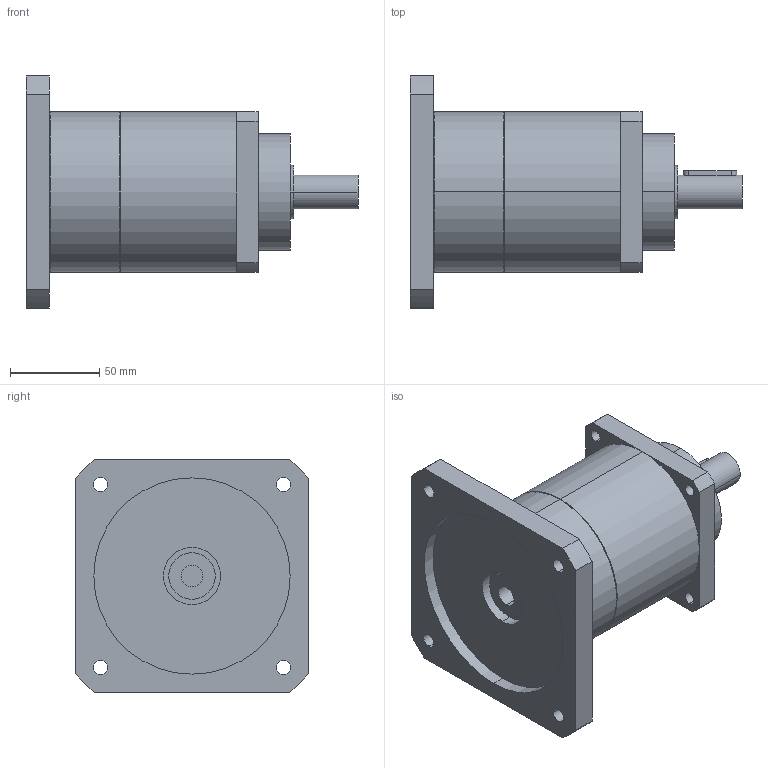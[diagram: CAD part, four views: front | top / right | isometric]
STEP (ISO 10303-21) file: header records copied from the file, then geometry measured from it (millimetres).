
FILE_DESCRIPTION(('CoCreate Modeling STEP Export'),'2;1');
FILE_NAME('GPT90_ig-9-12-16-20-25-28-35-40-50-70-100_19_B5T_12_P33.stp','2015-02-04T11:28:55',(''),(''),'CoCreate Modeling STEP processor for AP214 (Solid Model)','CoCreate Modeling 16.00C 25-Feb-2009 (C) Parametric Technology GmbH','');
FILE_SCHEMA(('AUTOMOTIVE_DESIGN { 1 0 10303 214 1 1 1 1 }'));
Length unit declared in the file: millimetre
Products named in the file (2): GPT90_ig-9-12-16-20-25-28-35-40-50-70-100_19_B5T_12_P33
Assembly tree (1 placements, depth 2):
  GPT90_ig-9-12-16-20-25-28-35-40-50-70-100_19_B5T_12_P33
    GPT90_ig-9-12-16-20-25-28-35-40-50-70-100_19_B5T_12_P33
Bounding box: 186 x 130 x 130 mm (x, y, z)
Volume: 974775.8 mm3; surface area: 90223.9 mm2
Topology: 1 solids, 1 shells, 77 faces, 207 edges, 142 vertices
Faces by surface type: cylinder 46, plane 27, cone 4
Entity records: 2601 total; most frequent: CARTESIAN_POINT 743, ORIENTED_EDGE 414, DIRECTION 324, EDGE_CURVE 207, VERTEX_POINT 142, AXIS2_PLACEMENT_3D 120, EDGE_LOOP 103, VECTOR 84
